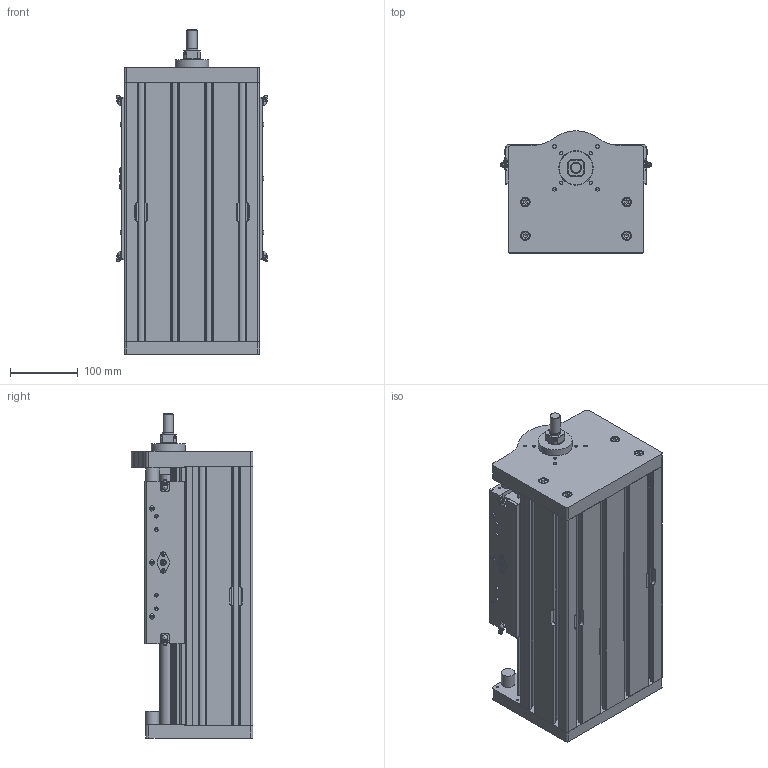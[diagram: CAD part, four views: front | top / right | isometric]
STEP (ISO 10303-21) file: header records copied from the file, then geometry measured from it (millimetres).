
FILE_DESCRIPTION(/* description */ ('Asse VU-K200SE-25H-25-N'),/* implementation_level */ '2;1');
FILE_NAME(/* name */ 'VU-K200SE-25H-25-N-CLIENTE.stp',/* time_stamp */ '2025-02-06T09:31:54+01:00',/* author */ ('davide.cavedon'),/* organization */ (''),/* preprocessor_version */ 'ST-DEVELOPER v20',/* originating_system */ 'Autodesk Inventor 2024',/* authorisation */ '');
FILE_SCHEMA (('CONFIG_CONTROL_DESIGN'));
Products named in the file (5): VU-K200SE-25H-25-N-CLIENTE; C_VU-K200SE-25H-25-N-CLIENTE-001; C_VU-K200SE-25H-25-N-CLIENTE-004; C_VU-K200SE-25H-25-N-CLIENTE-003; C_VU-K200SE-25H-25-N-CLIENTE-002
Assembly tree (4 placements, depth 2):
  VU-K200SE-25H-25-N-CLIENTE
    C_VU-K200SE-25H-25-N-CLIENTE-001
    C_VU-K200SE-25H-25-N-CLIENTE-004
    C_VU-K200SE-25H-25-N-CLIENTE-003
    C_VU-K200SE-25H-25-N-CLIENTE-002
Bounding box: 224.02 x 180.5 x 480 mm (x, y, z)
Volume: 10520962.9 mm3; surface area: 976804.6 mm2
Topology: 10 solids, 95 shells, 2708 faces, 7021 edges, 4597 vertices
Faces by surface type: plane 1589, cylinder 668, cone 241, torus 102, bspline 102, sphere 6
Full cylindrical faces by diameter (mm): 0.5 x4, 1 x8, 2 x5, 2.459 x2, 2.5 x2, 3 x10, 3.242 x30, 3.5 x2, 4 x6, 4.134 x8, 4.25 x2, 4.3 x2, 4.5 x9, 4.917 x24, 4.95 x2, 5 x14, 5.15 x2, 5.5 x8, 5.7 x2, 5.85 x2, 6 x40, 6.6 x24, 6.647 x28, 6.9 x4, 7 x6, 7.3 x8, 7.6 x8, 7.847 x4, 8 x10, 8.15 x2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
Entity records: 95443 total; most frequent: CARTESIAN_POINT 27341, ORIENTED_EDGE 13730, DIRECTION 13510, EDGE_CURVE 6923, AXIS2_PLACEMENT_3D 4622, VERTEX_POINT 4597, LINE 4266, VECTOR 4266
